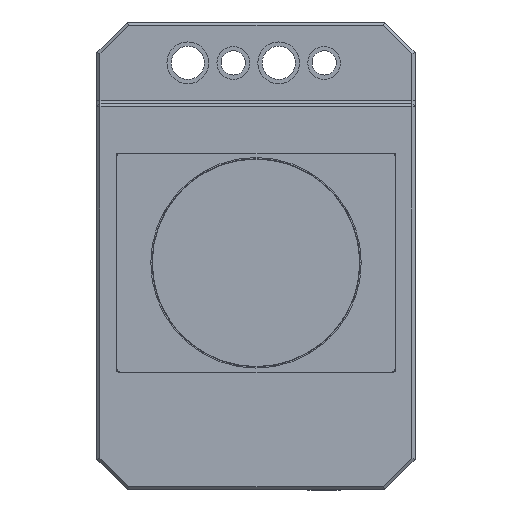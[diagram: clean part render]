
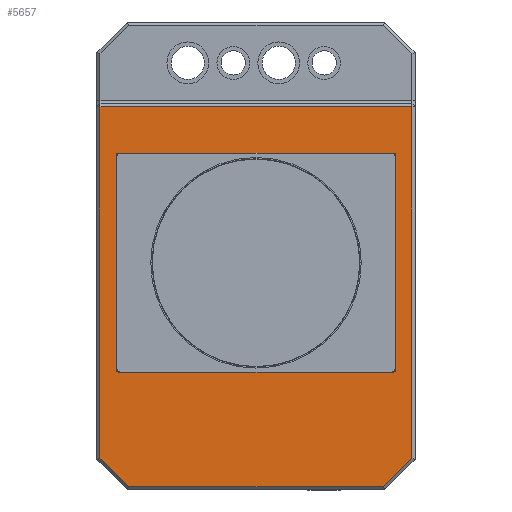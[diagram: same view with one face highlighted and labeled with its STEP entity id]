
A CAD part, front view. The second image highlights one B-rep face of the part: STEP entity #5657.
In plain terms, the highlighted planar face has unit normal (0, -1, 0).
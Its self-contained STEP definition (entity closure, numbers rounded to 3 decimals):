
#199 = VERTEX_POINT ( 'NONE', #4473 ) ;
#200 = VERTEX_POINT ( 'NONE', #4474 ) ;
#201 = VERTEX_POINT ( 'NONE', #4475 ) ;
#202 = VERTEX_POINT ( 'NONE', #4476 ) ;
#287 = VERTEX_POINT ( 'NONE', #4561 ) ;
#288 = VERTEX_POINT ( 'NONE', #4562 ) ;
#289 = VERTEX_POINT ( 'NONE', #4563 ) ;
#291 = VERTEX_POINT ( 'NONE', #4565 ) ;
#292 = VERTEX_POINT ( 'NONE', #4566 ) ;
#293 = VERTEX_POINT ( 'NONE', #4567 ) ;
#4473 = CARTESIAN_POINT ( 'NONE',  ( -46., 113.9, 36. ) ) ;
#4474 = CARTESIAN_POINT ( 'NONE',  ( -46., 113.9, -36. ) ) ;
#4475 = CARTESIAN_POINT ( 'NONE',  ( 46., 113.9, 36. ) ) ;
#4476 = CARTESIAN_POINT ( 'NONE',  ( 46., 113.9, -36. ) ) ;
#4561 = CARTESIAN_POINT ( 'NONE',  ( 51.5, 113.9, 51.5 ) ) ;
#4562 = CARTESIAN_POINT ( 'NONE',  ( -51.5, 113.9, 51.5 ) ) ;
#4563 = CARTESIAN_POINT ( 'NONE',  ( 51.5, 113.9, -64.586 ) ) ;
#4565 = CARTESIAN_POINT ( 'NONE',  ( 42.086, 113.9, -74. ) ) ;
#4566 = CARTESIAN_POINT ( 'NONE',  ( -51.5, 113.9, -64.586 ) ) ;
#4567 = CARTESIAN_POINT ( 'NONE',  ( -42.086, 113.9, -74. ) ) ;
#5657 = ADVANCED_FACE ( 'NONE', ( #22037, #22043 ), #24363, .F. ) ;
#7978 = EDGE_CURVE ( 'NONE', #199, #200, #27105, .T. ) ;
#7984 = EDGE_CURVE ( 'NONE', #199, #201, #27110, .T. ) ;
#7988 = EDGE_CURVE ( 'NONE', #201, #202, #31111, .T. ) ;
#7992 = EDGE_CURVE ( 'NONE', #200, #202, #31119, .T. ) ;
#8213 = EDGE_CURVE ( 'NONE', #292, #293, #31464, .T. ) ;
#8214 = EDGE_CURVE ( 'NONE', #287, #288, #31455, .T. ) ;
#8216 = EDGE_CURVE ( 'NONE', #288, #292, #31463, .T. ) ;
#8219 = EDGE_CURVE ( 'NONE', #289, #287, #31469, .T. ) ;
#8220 = EDGE_CURVE ( 'NONE', #293, #291, #31476, .T. ) ;
#8221 = EDGE_CURVE ( 'NONE', #291, #289, #31478, .T. ) ;
#9688 = ORIENTED_EDGE ( 'NONE', *, *, #8221, .T. ) ;
#9690 = ORIENTED_EDGE ( 'NONE', *, *, #8219, .T. ) ;
#9692 = ORIENTED_EDGE ( 'NONE', *, *, #8214, .T. ) ;
#9694 = ORIENTED_EDGE ( 'NONE', *, *, #8216, .T. ) ;
#9696 = ORIENTED_EDGE ( 'NONE', *, *, #8213, .T. ) ;
#9698 = ORIENTED_EDGE ( 'NONE', *, *, #8220, .T. ) ;
#9700 = ORIENTED_EDGE ( 'NONE', *, *, #7992, .F. ) ;
#9702 = ORIENTED_EDGE ( 'NONE', *, *, #7978, .F. ) ;
#9704 = ORIENTED_EDGE ( 'NONE', *, *, #7984, .T. ) ;
#9706 = ORIENTED_EDGE ( 'NONE', *, *, #7988, .T. ) ;
#10270 = EDGE_LOOP ( 'NONE', ( #9688, #9690, #9692, #9694, #9696, #9698 ) ) ;
#10274 = EDGE_LOOP ( 'NONE', ( #9700, #9702, #9704, #9706 ) ) ;
#12304 = AXIS2_PLACEMENT_3D ( 'NONE', #24366, #24371, #24372 ) ;
#22037 = FACE_OUTER_BOUND ( 'NONE', #10270, .T. ) ;
#22043 = FACE_BOUND ( 'NONE', #10274, .T. ) ;
#24363 = PLANE ( 'NONE',  #12304 ) ;
#24366 = CARTESIAN_POINT ( 'NONE',  ( -52.5, 113.9, 79.5 ) ) ;
#24371 = DIRECTION ( 'NONE',  ( 0., 1., 0. ) ) ;
#24372 = DIRECTION ( 'NONE',  ( 0., 0., 1. ) ) ;
#27105 = LINE ( 'NONE', #29957, #27106 ) ;
#27106 = VECTOR ( 'NONE', #29958, 1000. ) ;
#27110 = LINE ( 'NONE', #29970, #31110 ) ;
#29957 = CARTESIAN_POINT ( 'NONE',  ( -46., 113.9, 0. ) ) ;
#29958 = DIRECTION ( 'NONE',  ( 0., 0., -1. ) ) ;
#29970 = CARTESIAN_POINT ( 'NONE',  ( -121.141, 113.9, 36. ) ) ;
#29971 = DIRECTION ( 'NONE',  ( 1., 0., 0. ) ) ;
#29981 = CARTESIAN_POINT ( 'NONE',  ( 46., 113.9, 0. ) ) ;
#29982 = DIRECTION ( 'NONE',  ( 0., 0., -1. ) ) ;
#29991 = CARTESIAN_POINT ( 'NONE',  ( -121.141, 113.9, -36. ) ) ;
#29992 = DIRECTION ( 'NONE',  ( 1., 0., 0. ) ) ;
#30532 = CARTESIAN_POINT ( 'NONE',  ( -52.5, 113.9, 51.5 ) ) ;
#30534 = CARTESIAN_POINT ( 'NONE',  ( 51.5, 113.9, 79.5 ) ) ;
#30535 = CARTESIAN_POINT ( 'NONE',  ( -41.793, 113.9, -74.293 ) ) ;
#30536 = DIRECTION ( 'NONE',  ( 0.707, 0., -0.707 ) ) ;
#30538 = DIRECTION ( 'NONE',  ( -1., 0., 0. ) ) ;
#30541 = CARTESIAN_POINT ( 'NONE',  ( -51.5, 113.9, 79.5 ) ) ;
#30542 = DIRECTION ( 'NONE',  ( 0., 0., -1. ) ) ;
#30549 = DIRECTION ( 'NONE',  ( 0., 0., 1. ) ) ;
#30550 = CARTESIAN_POINT ( 'NONE',  ( -52.5, 113.9, -74. ) ) ;
#30551 = DIRECTION ( 'NONE',  ( 1., 0., 0. ) ) ;
#30552 = CARTESIAN_POINT ( 'NONE',  ( 51.793, 113.9, -64.293 ) ) ;
#30553 = DIRECTION ( 'NONE',  ( 0.707, 0., 0.707 ) ) ;
#31110 = VECTOR ( 'NONE', #29971, 1000. ) ;
#31111 = LINE ( 'NONE', #29981, #31113 ) ;
#31113 = VECTOR ( 'NONE', #29982, 1000. ) ;
#31115 = VECTOR ( 'NONE', #29992, 1000. ) ;
#31119 = LINE ( 'NONE', #29991, #31115 ) ;
#31455 = LINE ( 'NONE', #30532, #31466 ) ;
#31459 = VECTOR ( 'NONE', #30542, 1000. ) ;
#31463 = LINE ( 'NONE', #30541, #31459 ) ;
#31464 = LINE ( 'NONE', #30535, #31465 ) ;
#31465 = VECTOR ( 'NONE', #30536, 1000. ) ;
#31466 = VECTOR ( 'NONE', #30538, 1000. ) ;
#31469 = LINE ( 'NONE', #30534, #31475 ) ;
#31475 = VECTOR ( 'NONE', #30549, 1000. ) ;
#31476 = LINE ( 'NONE', #30550, #31477 ) ;
#31477 = VECTOR ( 'NONE', #30551, 1000. ) ;
#31478 = LINE ( 'NONE', #30552, #31479 ) ;
#31479 = VECTOR ( 'NONE', #30553, 1000. ) ;
